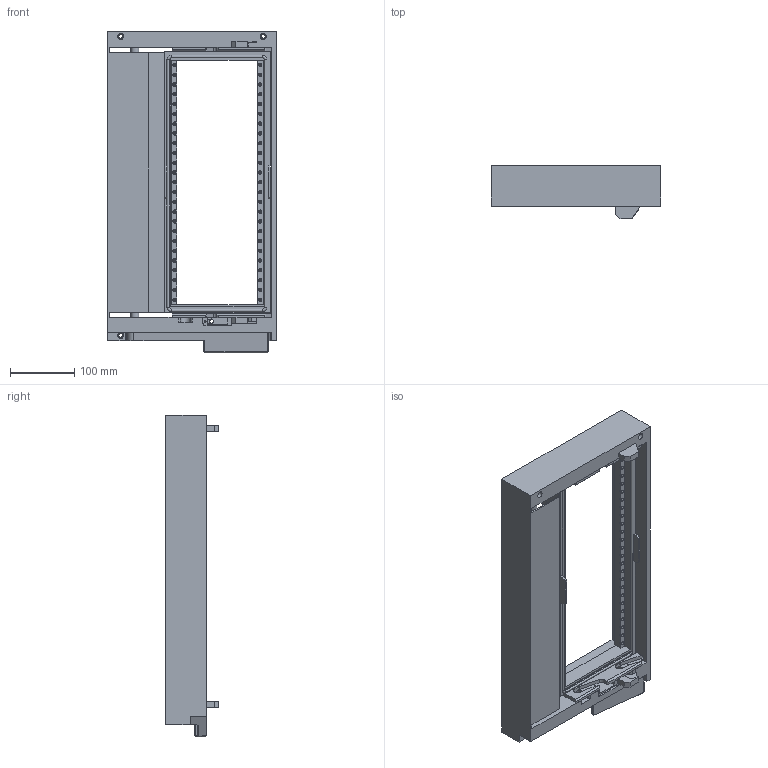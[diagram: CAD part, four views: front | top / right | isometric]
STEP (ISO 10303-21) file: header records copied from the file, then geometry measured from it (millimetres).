
FILE_DESCRIPTION (( 'STEP AP214' ), '1' );
FILE_NAME ('310104331.STEP', '2013-02-08T19:42:16', ( 'VPC Computer Systems' ), ( 'Virginia Panel Corporation' ), 'SwSTEP 2.0', 'SolidWorks 2012', '' );
FILE_SCHEMA (( 'AUTOMOTIVE_DESIGN' ));
Length unit declared in the file: inch
Products named in the file (1): 310104331
Bounding box: 263.83 x 83.08 x 501.65 mm (x, y, z)
Volume: 2095360.6 mm3; surface area: 536624.6 mm2
Topology: 3 solids, 3 shells, 940 faces, 2447 edges, 1597 vertices
Faces by surface type: cylinder 455, plane 442, cone 34, torus 8, bspline 1
Entity records: 29489 total; most frequent: CARTESIAN_POINT 5352, DIRECTION 5208, ORIENTED_EDGE 4842, EDGE_CURVE 2421, AXIS2_PLACEMENT_3D 1887, VERTEX_POINT 1597, VECTOR 1434, LINE 1434
